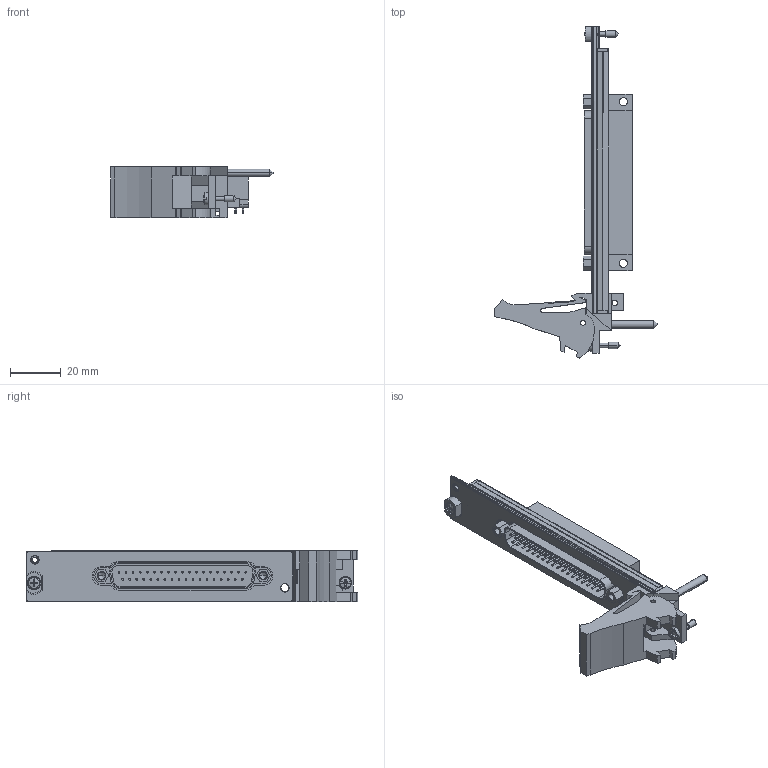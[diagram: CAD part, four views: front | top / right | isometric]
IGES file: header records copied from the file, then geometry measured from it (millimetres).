
Start section:  PTC IGES file: cu_pxi-2564.igs
Global section: file name: cu_pxi-2564.igs; native system: Pro/ENGINEER by Parametric Technology Corporation; preprocessor: 2006080; author: jjorden; organization: Unknown; date: 090908.132526; units: inch
Bounding box: 63.73 x 130.49 x 20.42 mm (x, y, z)
Surface area: 20656.5 mm2 (no closed solid volume)
Topology: 0 solids, 0 shells, 648 faces, 3174 edges, 3166 vertices
Faces by surface type: bspline 337, revolution 311
